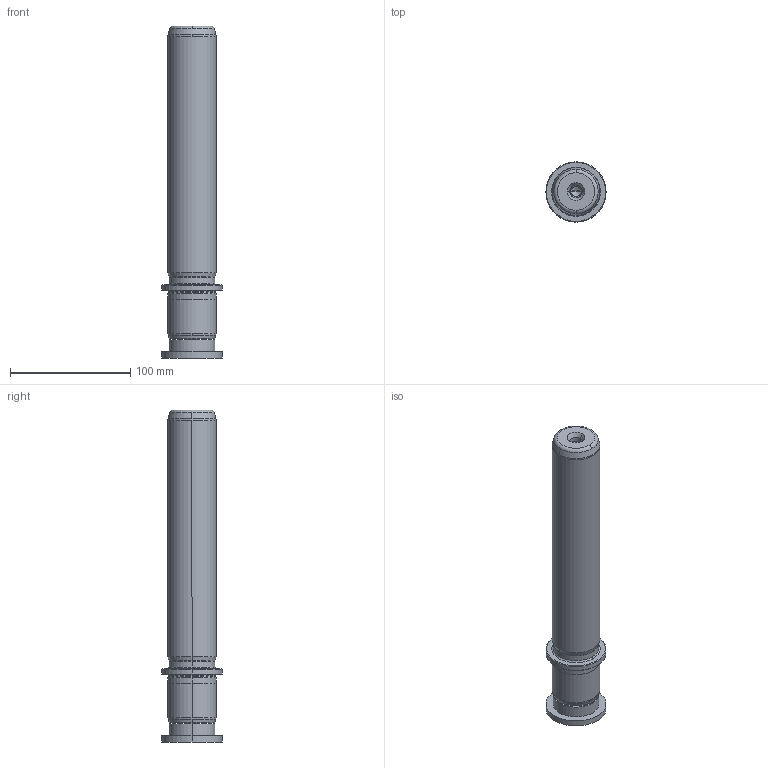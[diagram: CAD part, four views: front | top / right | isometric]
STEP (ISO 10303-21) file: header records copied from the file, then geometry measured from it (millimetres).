
FILE_DESCRIPTION((''),'2;1');
FILE_NAME('P22_040_220.stp','2009-02-16T10:21:09',(''),(''),'Mechanical Desktop 2009','Mechanical Desktop 2009',', , ');
FILE_SCHEMA(('CONFIG_CONTROL_DESIGN'));
Length unit declared in the file: millimetre
Products named in the file (2): Product; blmdl1
Assembly tree (1 placements, depth 2):
  Product
    blmdl1
Bounding box: 50 x 50 x 276 mm (x, y, z)
Volume: 345437.3 mm3; surface area: 46092.3 mm2
Topology: 3 solids, 3 shells, 99 faces, 237 edges, 149 vertices
Faces by surface type: cylinder 32, cone 28, plane 19, torus 10, bspline 10
Entity records: 3419 total; most frequent: CARTESIAN_POINT 923, DIRECTION 570, ORIENTED_EDGE 466, AXIS2_PLACEMENT_3D 246, EDGE_CURVE 233, CIRCLE 155, VERTEX_POINT 149, EDGE_LOOP 110
